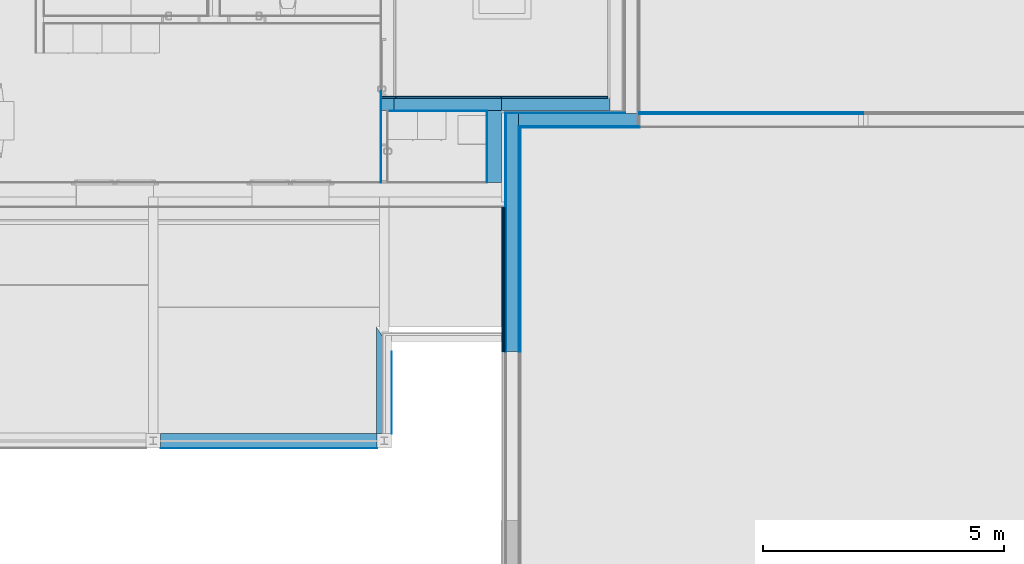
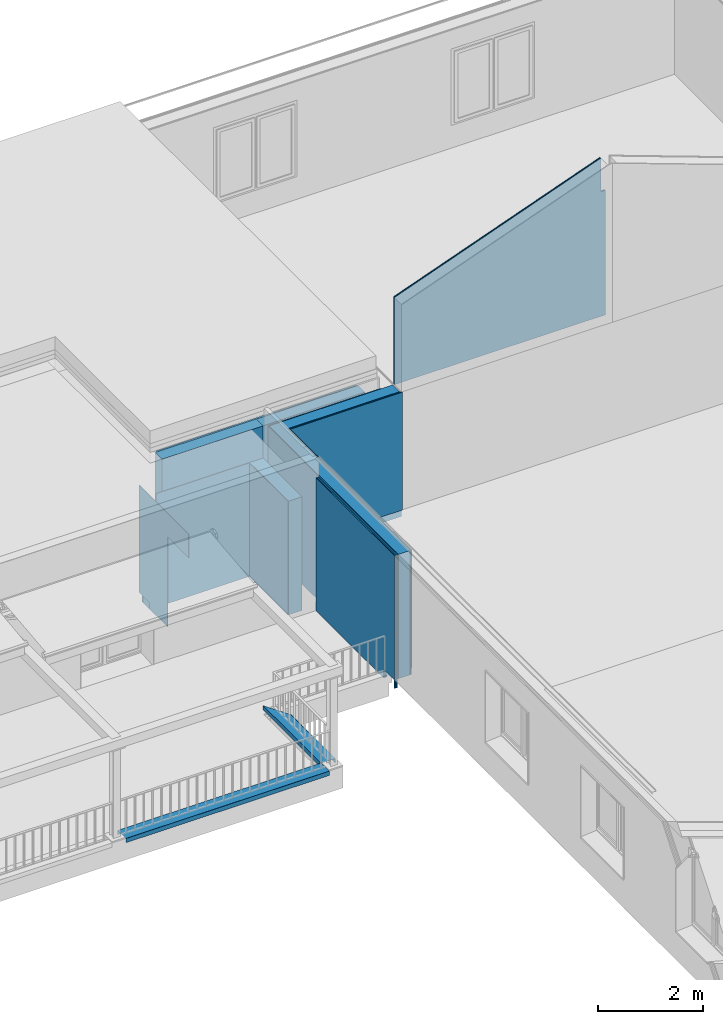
# One storey, part 11 of 36: 28 building element parts, 1 opening, 10 elements without a shape of their own.
"""IFC4 building model written with IfcOpenShell, lengths in millimetres."""

from ifc_helpers import new_model, entity, si_unit, converted_unit, derived_unit, direction, frame, origin_with_axes, place, context, subcontext, project, spatial, polygons, material, type_object, element, aggregate, save


model = new_model("IFC4")

# Units and contexts
model_context = context("Model", 3, precision=0.01, world=origin_with_axes(), true_north=direction((0.0, 1.0)))
body_context = subcontext(model_context, "Body", "Model", "MODEL_VIEW")
ifc_project = project(units=[si_unit("LENGTHUNIT", "METRE", prefix="MILLI"), si_unit("AREAUNIT", "SQUARE_METRE"), si_unit("VOLUMEUNIT", "CUBIC_METRE"), converted_unit("PLANEANGLEUNIT", "DEGREE", entity("IfcPlaneAngleMeasure", 0.0174532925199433), si_unit("PLANEANGLEUNIT", "RADIAN"), dimensions=[0, 0, 0, 0, 0, 0, 0]), converted_unit("TIMEUNIT", "Year", entity("IfcTimeMeasure", 31557600.0), si_unit("TIMEUNIT", "SECOND"), dimensions=[0, 0, 1, 0, 0, 0, 0]), si_unit("MASSUNIT", "GRAM", prefix="KILO"), si_unit("THERMODYNAMICTEMPERATUREUNIT", "DEGREE_CELSIUS"), si_unit("LUMINOUSINTENSITYUNIT", "LUMEN"), si_unit("ENERGYUNIT", "JOULE", prefix="MEGA"), derived_unit("THERMALCONDUCTANCEUNIT", [(si_unit("POWERUNIT", "WATT"), 1), (si_unit("LENGTHUNIT", "METRE"), -1), (si_unit("THERMODYNAMICTEMPERATUREUNIT", "KELVIN"), -1)]), derived_unit("SPECIFICHEATCAPACITYUNIT", [(si_unit("ENERGYUNIT", "JOULE"), 1), (si_unit("MASSUNIT", "GRAM", prefix="KILO"), -1), (si_unit("THERMODYNAMICTEMPERATUREUNIT", "KELVIN"), -1)]), derived_unit("MASSDENSITYUNIT", [(si_unit("MASSUNIT", "GRAM", prefix="KILO"), 1), (si_unit("VOLUMEUNIT", "CUBIC_METRE"), -1)])], contexts=[model_context])

# Site, building, storey
site_placement = place(None, origin_with_axes())
site = spatial("IfcSite", under=ifc_project, at=site_placement, Name="Gelände", CompositionType="ELEMENT")
building_placement = place(site_placement, origin_with_axes())
building = spatial("IfcBuilding", under=site, at=building_placement, Name="Gebäude", CompositionType="ELEMENT")
storey_placement = place(building_placement, frame((0.0, 0.0, 8700.0), z_axis=(0.0, 0.0, 1.0), x_axis=(1.0, 0.0, 0.0)))
storey = spatial("IfcBuildingStorey", under=building, at=storey_placement, Name="Attika", CompositionType="ELEMENT", Elevation=8700.0)

# Wall, building element parts
wall_type_1 = type_object("IfcWallType", Name="Aussenwand Typ 01 318", PredefinedType="NOTDEFINED")
wall_1_placement = place(storey_placement, frame((20776.99744477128, 27599.59728131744, 3400.0), z_axis=(0.0, 0.0, 1.0), x_axis=(1.0, 0.0, 0.0)))
wall_1 = element("IfcWall", 1, at=wall_1_placement, inside=storey, type_object=wall_type_1, Name="Wand-014", PredefinedType="NOTDEFINED")
ifc_material_1 = material(Name="Verputz Innen")
building_element_part_1_placement = place(wall_1_placement, origin_with_axes())
building_element_part_1 = element("IfcBuildingElementPart", 2, at=building_element_part_1_placement, material=ifc_material_1, Name="Verputz Innen", PredefinedType="NOTDEFINED", context=body_context, shape_type="Tessellation", body=[
    polygons([(0.0, 318.0000000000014, 2032.028896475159), (4551.99999979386, 318.0000000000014, 3688.821402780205), (4551.99999979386, 318.0000000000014, 2903.934870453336), (4651.999999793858, 318.0000000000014, 2903.934870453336), (4651.999999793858, 318.0000000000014, 0.0), (0.0, 318.0000000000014, 0.0), (4551.99999979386, 307.9999999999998, 3688.821402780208), (0.0, 307.9999999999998, 2032.028896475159), (4551.99999979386, 307.9999999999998, 2903.934870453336), (4651.999999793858, 307.9999999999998, 2903.934870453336), (4651.999999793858, 307.9999999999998, 0.0), (0.0, 307.9999999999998, 0.0)], [[[1, 2, 3, 4, 5, 6]], [[7, 2, 1, 8]], [[2, 7, 9, 3]], [[4, 3, 9, 10]], [[10, 11, 5, 4]], [[5, 11, 12, 6]], [[8, 1, 6, 12]], [[7, 8, 12, 11, 10, 9]]], closed=True),
])
ifc_material_2 = material(Name="Gipsfaserplatte GFP")
building_element_part_2_placement = place(wall_1_placement, origin_with_axes())
building_element_part_2 = element("IfcBuildingElementPart", 3, at=building_element_part_2_placement, material=ifc_material_2, Name="Gipsfaserplatte GFP", PredefinedType="NOTDEFINED", context=body_context, shape_type="Tessellation", body=[
    polygons([(0.0, 292.9999999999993, 2032.028896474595), (4551.99999979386, 292.9999999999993, 3688.821402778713), (4551.99999979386, 292.9999999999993, 2903.934870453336), (4651.999999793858, 292.9999999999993, 2903.934870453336), (4651.999999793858, 292.9999999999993, 0.0), (0.0, 292.9999999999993, 0.0), (4551.99999979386, 278.0000000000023, 3688.821402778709), (0.0, 277.9999999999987, 2032.028896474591), (4551.99999979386, 277.9999999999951, 2903.934870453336), (4651.999999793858, 278.0000000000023, 2903.934870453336), (4651.999999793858, 277.9999999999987, 0.0), (0.0, 277.9999999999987, 0.0)], [[[1, 2, 3, 4, 5, 6]], [[7, 2, 1, 8]], [[2, 7, 9, 3]], [[4, 3, 9, 10]], [[10, 11, 5, 4]], [[5, 11, 12, 6]], [[8, 1, 6, 12]], [[7, 8, 12, 11, 10, 9]]], closed=True),
])
building_element_part_3_placement = place(wall_1_placement, origin_with_axes())
building_element_part_3 = element("IfcBuildingElementPart", 4, at=building_element_part_3_placement, material=ifc_material_2, Name="Gipsfaserplatte GFP", PredefinedType="NOTDEFINED", context=body_context, shape_type="Tessellation", body=[
    polygons([(0.0, 307.9999999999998, 2032.028896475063), (4551.99999979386, 307.9999999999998, 3688.821402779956), (4551.99999979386, 307.9999999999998, 2903.934870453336), (4651.999999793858, 307.9999999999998, 2903.934870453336), (4651.999999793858, 307.9999999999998, 0.0), (0.0, 307.9999999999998, 0.0), (4551.99999979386, 292.9999999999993, 3688.821402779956), (0.0, 292.9999999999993, 2032.028896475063), (4551.99999979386, 292.9999999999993, 2903.934870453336), (4651.999999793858, 292.9999999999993, 2903.934870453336), (4651.999999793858, 292.9999999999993, 0.0), (0.0, 292.9999999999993, 0.0)], [[[1, 2, 3, 4, 5, 6]], [[7, 2, 1, 8]], [[2, 7, 9, 3]], [[4, 3, 9, 10]], [[10, 11, 5, 4]], [[5, 11, 12, 6]], [[8, 1, 6, 12]], [[7, 8, 12, 11, 10, 9]]], closed=True),
])
aggregate(wall_1, [building_element_part_1, building_element_part_2, building_element_part_3])

wall_type_2 = type_object("IfcWallType", Name="Innenwand Typ 09 310", PredefinedType="NOTDEFINED")
wall_2_placement = place(storey_placement, frame((17609.99744477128, 28247.59728131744, 0.0), z_axis=(0.0, 0.0, 1.0), x_axis=(0.0, -1.0, 0.0)))
wall_2 = element("IfcWall", 5, at=wall_2_placement, inside=storey, type_object=wall_type_2, Name="Wand-014", PredefinedType="NOTDEFINED")
ifc_material_3 = material(Name="Beton bewehrt")
building_element_part_4_placement = place(wall_2_placement, origin_with_axes())
building_element_part_4 = element("IfcBuildingElementPart", 6, at=building_element_part_4_placement, material=ifc_material_3, Name="Beton bewehrt", PredefinedType="NOTDEFINED", context=body_context, shape_type="Tessellation", body=[
    polygons([(1790.000540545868, 309.9999999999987, 2650.0), (300.0000000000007, 309.9999999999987, 2650.0), (300.0000000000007, 10.00000000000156, 2650.0), (1790.000540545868, 10.00000000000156, 2650.0), (1790.000540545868, 309.9999999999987, 0.0), (300.0000000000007, 309.9999999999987, 0.0), (300.0000000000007, 10.00000000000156, 0.0), (1790.000540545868, 9.99999999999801, 0.0)], [[[1, 2, 3, 4]], [[5, 6, 2, 1]], [[3, 2, 6, 7]], [[4, 3, 7, 8]], [[4, 8, 5, 1]], [[8, 7, 6, 5]]], closed=True),
])
ifc_material_4 = material(Name="Kalkzementputz Aussen")
building_element_part_5_placement = place(wall_2_placement, origin_with_axes())
building_element_part_5 = element("IfcBuildingElementPart", 7, at=building_element_part_5_placement, material=ifc_material_4, Name="Kalkzementputz Aussen", PredefinedType="NOTDEFINED", context=body_context, shape_type="Tessellation", body=[
    polygons([(1780.000540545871, 10.00000000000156, 2650.0), (309.9999999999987, 10.00000000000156, 2650.0), (309.9999999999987, 0.0, 2650.0), (1780.000540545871, 0.0, 2650.0), (1780.000540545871, 9.99999999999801, 0.0), (309.9999999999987, 10.00000000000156, 0.0), (309.9999999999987, 0.0, 0.0), (1780.000540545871, 0.0, 0.0)], [[[1, 2, 3, 4]], [[5, 6, 2, 1]], [[3, 2, 6, 7]], [[4, 3, 7, 8]], [[4, 8, 5, 1]], [[8, 7, 6, 5]]], closed=True),
])
aggregate(wall_2, [building_element_part_4, building_element_part_5])

wall_3_placement = place(storey_placement, frame((17999.99744477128, 27907.59728131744, 500.0), z_axis=(0.0, 0.0, 1.0), x_axis=(1.0, 0.0, 0.0)))
wall_3 = element("IfcWall", 8, at=wall_3_placement, inside=storey, type_object=wall_type_1, Name="Wand-014", PredefinedType="NOTDEFINED")
ifc_material_5 = material(Name="Grobspanplatte-OSB")
building_element_part_6_placement = place(wall_3_placement, origin_with_axes())
building_element_part_6 = element("IfcBuildingElementPart", 9, at=building_element_part_6_placement, material=ifc_material_5, Name="Grobspanplatte-OSB", PredefinedType="NOTDEFINED", context=body_context, shape_type="Tessellation", body=[
    polygons([(2487.000000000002, 0.0, 2900.0), (18.00000000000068, 0.0, 2900.0), (18.00000000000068, -18.00000000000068, 2900.0), (2487.000000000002, -18.00000000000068, 2900.0), (2487.000000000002, 0.0, 0.0), (18.00000000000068, 0.0, 0.0), (18.00000000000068, -18.00000000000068, 0.0), (2487.000000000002, -18.00000000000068, 0.0)], [[[1, 2, 3, 4]], [[5, 6, 2, 1]], [[3, 2, 6, 7]], [[4, 3, 7, 8]], [[4, 8, 5, 1]], [[8, 7, 6, 5]]], closed=True),
])
ifc_material_6 = material(Name="Ständer Konstruktion gedämmt")
building_element_part_7_placement = place(wall_3_placement, origin_with_axes())
building_element_part_7 = element("IfcBuildingElementPart", 10, at=building_element_part_7_placement, material=ifc_material_6, Name="Ständer Konstruktion gedämmt", PredefinedType="NOTDEFINED", context=body_context, shape_type="Tessellation", body=[
    polygons([(2747.0, -18.00000000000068, 2900.0), (277.9999999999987, -18.00000000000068, 2900.0), (277.9999999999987, -277.9999999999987, 2900.0), (2747.0, -277.9999999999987, 2900.0), (2747.0, -18.00000000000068, 0.0), (277.9999999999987, -18.00000000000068, 0.0), (277.9999999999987, -277.9999999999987, 0.0), (2747.0, -277.9999999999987, 0.0)], [[[1, 2, 3, 4]], [[5, 6, 2, 1]], [[3, 2, 6, 7]], [[4, 3, 7, 8]], [[4, 8, 5, 1]], [[8, 7, 6, 5]]], closed=True),
])
building_element_part_8_placement = place(wall_3_placement, origin_with_axes())
building_element_part_8 = element("IfcBuildingElementPart", 11, at=building_element_part_8_placement, material=ifc_material_2, Name="Gipsfaserplatte GFP", PredefinedType="NOTDEFINED", context=body_context, shape_type="Tessellation", body=[
    polygons([(2762.0, -277.9999999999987, 2900.0), (292.9999999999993, -277.9999999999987, 2900.0), (292.9999999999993, -292.9999999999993, 2900.0), (2762.0, -292.9999999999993, 2900.0), (2762.0, -277.9999999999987, 0.0), (292.9999999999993, -277.9999999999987, 0.0), (292.9999999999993, -292.9999999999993, 0.0), (2762.0, -292.9999999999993, 0.0)], [[[1, 2, 3, 4]], [[5, 6, 2, 1]], [[3, 2, 6, 7]], [[4, 3, 7, 8]], [[4, 8, 5, 1]], [[8, 7, 6, 5]]], closed=True),
])
building_element_part_9_placement = place(wall_3_placement, origin_with_axes())
building_element_part_9 = element("IfcBuildingElementPart", 12, at=building_element_part_9_placement, material=ifc_material_2, Name="Gipsfaserplatte GFP", PredefinedType="NOTDEFINED", context=body_context, shape_type="Tessellation", body=[
    polygons([(2777.000000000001, -292.9999999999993, 2900.0), (307.9999999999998, -292.9999999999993, 2900.0), (307.9999999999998, -307.9999999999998, 2900.0), (2777.000000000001, -307.9999999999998, 2900.0), (2777.000000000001, -292.9999999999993, 0.0), (307.9999999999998, -292.9999999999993, 0.0), (307.9999999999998, -307.9999999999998, 0.0), (2777.000000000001, -307.9999999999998, 0.0)], [[[1, 2, 3, 4]], [[5, 6, 2, 1]], [[3, 2, 6, 7]], [[4, 3, 7, 8]], [[4, 8, 5, 1]], [[8, 7, 6, 5]]], closed=True),
])
building_element_part_10_placement = place(wall_3_placement, origin_with_axes())
building_element_part_10 = element("IfcBuildingElementPart", 13, at=building_element_part_10_placement, material=ifc_material_1, Name="Verputz Innen", PredefinedType="NOTDEFINED", context=body_context, shape_type="Tessellation", body=[
    polygons([(2787.000000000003, -318.0000000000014, 150.0000000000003), (2787.000000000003, -307.9999999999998, 150.0000000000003), (2787.000000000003, -307.9999999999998, 2900.0), (2787.000000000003, -318.0000000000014, 2900.0), (318.0000000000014, -307.9999999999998, 150.0000000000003), (318.0000000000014, -318.0000000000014, 150.0000000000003), (318.0000000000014, -307.9999999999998, 2900.0), (318.0000000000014, -318.0000000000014, 2900.0)], [[[1, 2, 3, 4]], [[5, 2, 1, 6]], [[2, 5, 7, 3]], [[4, 3, 7, 8]], [[6, 1, 4, 8]], [[5, 6, 8, 7]]], closed=True),
])
aggregate(wall_3, [building_element_part_6, building_element_part_7, building_element_part_8, building_element_part_9, building_element_part_10])

wall_type_3 = type_object("IfcWallType", Name="Innenwand Typ 10 310", PredefinedType="NOTDEFINED")
wall_4_placement = place(storey_placement, frame((15728.99744477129, 28247.59728131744, 0.0), z_axis=(0.0, 0.0, 1.0), x_axis=(1.0, 0.0, 0.0)))
wall_4 = element("IfcWall", 14, at=wall_4_placement, inside=storey, type_object=wall_type_3, Name="Wand-014", PredefinedType="NOTDEFINED")
ifc_material_7 = material(Name="Sichtbeton")
building_element_part_11_placement = place(wall_4_placement, origin_with_axes())
building_element_part_11 = element("IfcBuildingElementPart", 15, at=building_element_part_11_placement, material=ifc_material_7, Name="Sichtbeton", PredefinedType="NOTDEFINED", context=body_context, shape_type="Tessellation", body=[
    polygons([(-310.0000000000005, 0.0, 150.0000000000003), (0.0, 0.0, 150.0000000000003), (0.0, 0.0, 3399.999999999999), (2190.999999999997, 0.0, 3399.999999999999), (2190.999999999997, 0.0, 0.0), (-310.0000000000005, 0.0, 0.0), (-310.0000000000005, -39.99999999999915, 150.0000000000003), (0.0, -39.99999999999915, 150.0000000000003), (0.0, -39.99999999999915, 3399.999999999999), (2190.999999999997, -39.99999999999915, 3399.999999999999), (2190.999999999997, -39.99999999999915, 0.0), (-310.0000000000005, -39.99999999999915, 0.0)], [[[1, 2, 3, 4, 5, 6]], [[1, 7, 8, 2]], [[2, 8, 9, 3]], [[10, 4, 3, 9]], [[5, 4, 10, 11]], [[6, 5, 11, 12]], [[6, 12, 7, 1]], [[11, 10, 9, 8, 7, 12]]], closed=True),
])
building_element_part_12_placement = place(wall_4_placement, origin_with_axes())
building_element_part_12 = element("IfcBuildingElementPart", 16, at=building_element_part_12_placement, material=ifc_material_3, Name="Beton bewehrt", PredefinedType="NOTDEFINED", context=body_context, shape_type="Tessellation", body=[
    polygons([(-310.0000000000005, -39.99999999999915, 150.0000000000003), (-40.00000000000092, -39.99999999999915, 150.0000000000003), (-40.00000000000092, -39.99999999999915, 3399.999999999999), (2190.999999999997, -39.99999999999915, 3399.999999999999), (2190.999999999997, -39.99999999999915, 0.0), (-310.0000000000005, -39.99999999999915, 0.0), (-310.0000000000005, -300.0000000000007, 150.0000000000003), (-40.00000000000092, -300.0000000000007, 150.0000000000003), (-40.00000000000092, -300.0000000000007, 3399.999999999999), (2190.999999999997, -300.0000000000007, 3399.999999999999), (2190.999999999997, -300.0000000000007, 0.0), (-310.0000000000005, -300.0000000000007, 0.0)], [[[1, 2, 3, 4, 5, 6]], [[1, 7, 8, 2]], [[2, 8, 9, 3]], [[10, 4, 3, 9]], [[5, 4, 10, 11]], [[6, 5, 11, 12]], [[6, 12, 7, 1]], [[11, 10, 9, 8, 7, 12]]], closed=True),
])
building_element_part_13_placement = place(wall_4_placement, origin_with_axes())
building_element_part_13 = element("IfcBuildingElementPart", 17, at=building_element_part_13_placement, material=ifc_material_4, Name="Kalkzementputz Aussen", PredefinedType="NOTDEFINED", context=body_context, shape_type="Tessellation", body=[
    polygons([(-175.0000000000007, -300.0000000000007, 150.0000000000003), (-174.9999999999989, -299.9998946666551, 2649.999948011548), (1890.999999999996, -299.9998946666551, 2649.999948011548), (1890.999999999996, -300.0000000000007, 0.0), (-164.9999999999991, -300.0000000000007, 0.0), (-165.0000000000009, -300.0000000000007, 150.0000000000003), (-175.0000000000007, -309.9999999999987, 150.0000000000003), (-174.9999999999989, -309.9999999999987, 2649.999948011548), (1890.999999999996, -309.9999999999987, 2649.999948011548), (1890.999999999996, -309.9999999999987, 0.0), (-164.9999999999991, -309.9999999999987, 0.0), (-165.0000000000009, -309.9999999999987, 150.0000000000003)], [[[1, 2, 3, 4, 5, 6]], [[7, 8, 2, 1]], [[8, 9, 3, 2]], [[4, 3, 9, 10]], [[4, 10, 11, 5]], [[11, 12, 6, 5]], [[12, 7, 1, 6]], [[10, 9, 8, 7, 12, 11]]], closed=True),
])
aggregate(wall_4, [building_element_part_11, building_element_part_12, building_element_part_13])

# Curtain wall, building element parts
curtain_wall_type = type_object("IfcCurtainWallType", Name="Fassade Typ 02 - Vertikale Schalung 71", PredefinedType="NOTDEFINED")
curtain_wall_placement = place(storey_placement, frame((17928.99744477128, 22947.48446271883, 300.0000000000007), z_axis=(0.0, 0.0, 1.0), x_axis=(0.0, 1.0, 0.0)))
curtain_wall = element("IfcCurtainWall", 18, at=curtain_wall_placement, inside=storey, type_object=curtain_wall_type, Name="Wand-014", PredefinedType="NOTDEFINED")
ifc_material_8 = material(Name="Falzschalung vertikal")
building_element_part_14_placement = place(curtain_wall_placement, origin_with_axes())
building_element_part_14 = element("IfcBuildingElementPart", 19, at=building_element_part_14_placement, material=ifc_material_8, Name="Falzschalung vertikal", PredefinedType="NOTDEFINED", context=body_context, shape_type="Tessellation", body=[
    polygons([(10.11227805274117, -21.0000000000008, 199.9999999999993), (410.1122780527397, -21.0000000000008, 199.9999999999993), (410.1122780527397, -21.0000000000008, 0.0), (3000.0, -21.0000000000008, 0.0), (3000.0, -21.0000000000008, 3099.999999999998), (0.0, -21.0000000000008, 3099.999999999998), (0.0, -21.0000000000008, 0.0), (10.11227805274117, -21.0000000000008, 0.0), (10.11227805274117, 0.0, 199.9999999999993), (410.1122780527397, 0.0, 199.9999999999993), (410.1122780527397, 0.0, 0.0), (3000.0, 0.0, 0.0), (3000.0, 0.0, 3099.999999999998), (0.0, 0.0, 3099.999999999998), (0.0, 0.0, 0.0), (10.11227805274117, 0.0, 0.0)], [[[1, 2, 3, 4, 5, 6, 7, 8]], [[9, 10, 2, 1]], [[11, 3, 2, 10]], [[4, 3, 11, 12]], [[12, 13, 5, 4]], [[14, 6, 5, 13]], [[15, 7, 6, 14]], [[15, 16, 8, 7]], [[9, 1, 8, 16]], [[11, 10, 9, 16, 15, 14, 13, 12]]], closed=True),
])
ifc_material_9 = material(Name="Lattenrost horizontal")
building_element_part_15_placement = place(curtain_wall_placement, origin_with_axes())
building_element_part_15 = element("IfcBuildingElementPart", 20, at=building_element_part_15_placement, material=ifc_material_9, Name="Lattenrost horizontal", PredefinedType="NOTDEFINED", context=body_context, shape_type="Tessellation", body=[
    polygons([(10.11227805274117, -45.99999999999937, 199.9999999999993), (410.1122780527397, -45.99999999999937, 199.9999999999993), (410.1122780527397, -45.99999999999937, 0.0), (3000.0, -45.99999999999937, 0.0), (3000.0, -45.99999999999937, 3099.999999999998), (0.0, -45.99999999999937, 3099.999999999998), (0.0, -45.99999999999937, 0.0), (10.11227805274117, -45.99999999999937, 0.0), (10.11227805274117, -21.0000000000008, 199.9999999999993), (410.1122780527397, -21.0000000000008, 199.9999999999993), (410.1122780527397, -21.0000000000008, 0.0), (3000.0, -21.0000000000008, 0.0), (3000.0, -21.0000000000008, 3099.999999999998), (0.0, -21.0000000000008, 3099.999999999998), (0.0, -21.0000000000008, 0.0), (10.11227805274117, -21.0000000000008, 0.0)], [[[1, 2, 3, 4, 5, 6, 7, 8]], [[9, 10, 2, 1]], [[11, 3, 2, 10]], [[4, 3, 11, 12]], [[12, 13, 5, 4]], [[14, 6, 5, 13]], [[15, 7, 6, 14]], [[15, 16, 8, 7]], [[9, 1, 8, 16]], [[11, 10, 9, 16, 15, 14, 13, 12]]], closed=True),
])
ifc_material_10 = material(Name="Lattenrost vertikal")
building_element_part_16_placement = place(curtain_wall_placement, origin_with_axes())
building_element_part_16 = element("IfcBuildingElementPart", 21, at=building_element_part_16_placement, material=ifc_material_10, Name="Lattenrost vertikal", PredefinedType="NOTDEFINED", context=body_context, shape_type="Tessellation", body=[
    polygons([(210.1122780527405, -71.0000000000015, 199.9999999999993), (410.1122780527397, -71.0000000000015, 199.9999999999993), (410.1122780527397, -71.0000000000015, 0.0), (3000.0, -71.0000000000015, 0.0), (3000.0, -71.0000000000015, 3099.999999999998), (0.0, -71.0000000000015, 3099.999999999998), (0.0, -71.0000000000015, 0.0), (10.11227805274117, -71.0000000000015, 0.0), (10.11227805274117, -71.0000000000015, 199.9999999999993), (10.11227805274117, -45.99999999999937, 199.9999999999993), (410.1122780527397, -45.99999999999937, 199.9999999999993), (410.1122780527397, -45.99999999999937, 0.0), (3000.0, -45.99999999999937, 0.0), (3000.0, -45.99999999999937, 3099.999999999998), (0.0, -45.99999999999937, 3099.999999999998), (0.0, -45.99999999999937, 0.0), (10.11227805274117, -45.99999999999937, 0.0)], [[[1, 2, 3, 4, 5, 6, 7, 8, 9]], [[10, 11, 2, 1, 9]], [[12, 3, 2, 11]], [[4, 3, 12, 13]], [[13, 14, 5, 4]], [[15, 6, 5, 14]], [[16, 7, 6, 15]], [[16, 17, 8, 7]], [[10, 9, 8, 17]], [[12, 11, 10, 17, 16, 15, 14, 13]]], closed=True),
])
aggregate(curtain_wall, [building_element_part_14, building_element_part_15, building_element_part_16])

# Wall, building element parts
wall_type_4 = type_object("IfcWallType", Name="Innenwand Typ 06 300", PredefinedType="NOTDEFINED")
wall_5_placement = place(storey_placement, frame((17919.99744477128, 28247.59728131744, 500.0), z_axis=(0.0, 0.0, 1.0), x_axis=(1.0, 0.0, 0.0)))
wall_5 = element("IfcWall", 22, at=wall_5_placement, inside=storey, type_object=wall_type_4, Name="Wand-014", PredefinedType="NOTDEFINED")
building_element_part_17_placement = place(wall_5_placement, origin_with_axes())
building_element_part_17 = element("IfcBuildingElementPart", 23, at=building_element_part_17_placement, material=ifc_material_3, Name="Beton bewehrt", PredefinedType="NOTDEFINED", context=body_context, shape_type="Tessellation", body=[
    polygons([(2248.999999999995, -300.0000000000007, 0.0), (0.0, -300.0000000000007, 0.0), (0.0, -39.99999999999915, 0.0), (2248.999999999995, -39.99999999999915, 0.0), (2248.999999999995, -300.0000000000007, 2899.999999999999), (0.0, -300.0000000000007, 2899.999999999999), (0.0, -39.99999999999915, 2899.999999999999), (2248.999999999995, -39.99999999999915, 2899.999999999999)], [[[1, 2, 3, 4]], [[5, 6, 2, 1]], [[3, 2, 6, 7]], [[4, 3, 7, 8]], [[4, 8, 5, 1]], [[8, 7, 6, 5]]], closed=True),
])
building_element_part_18_placement = place(wall_5_placement, origin_with_axes())
building_element_part_18 = element("IfcBuildingElementPart", 24, at=building_element_part_18_placement, material=ifc_material_7, Name="Sichtbeton", PredefinedType="NOTDEFINED", context=body_context, shape_type="Tessellation", body=[
    polygons([(2208.999999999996, -39.99999999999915, 0.0), (0.0, -39.99999999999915, 0.0), (0.0, 0.0, 0.0), (2208.999999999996, 0.0, 0.0), (2208.999999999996, -39.99999999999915, 2899.999999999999), (0.0, -39.99999999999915, 2899.999999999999), (0.0, 0.0, 2899.999999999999), (2208.999999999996, 0.0, 2899.999999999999)], [[[1, 2, 3, 4]], [[5, 6, 2, 1]], [[3, 2, 6, 7]], [[4, 3, 7, 8]], [[4, 8, 5, 1]], [[8, 7, 6, 5]]], closed=True),
])
aggregate(wall_5, [building_element_part_17, building_element_part_18])

# Wall, opening, building element part
wall_type_5 = type_object("IfcWallType", Name="Innenwand Typ 04 145", PredefinedType="NOTDEFINED")
wall_6_placement = place(storey_placement, frame((15728.99744477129, 28247.59728131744, 0.0), z_axis=(0.0, 0.0, 1.0), x_axis=(0.0, -1.0, 0.0)))
wall_6 = element("IfcWall", 25, at=wall_6_placement, inside=storey, type_object=wall_type_5, Name="Wand-014", PredefinedType="NOTDEFINED")
opening_placement = place(wall_6_placement, frame((1390.00054054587, 0.0, 0.0), z_axis=(0.0, 0.0, 1.0), x_axis=(1.0, 0.0, 0.0)))
element("IfcOpeningElement", 26, at=opening_placement, cuts=wall_6, Name="Tür-011", context=body_context, identifier="Reference", shape_type="Tessellation", body=[
    polygons([(399.9999999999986, -163.9999999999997, 2100.0), (399.9999999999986, -163.9999999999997, 0.0), (-399.9999999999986, -163.9999999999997, 0.0), (-399.9999999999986, -163.9999999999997, 2100.0), (399.9999999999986, -310.9999999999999, 2100.0), (399.9999999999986, -310.9999999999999, 0.0), (-399.9999999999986, -310.9999999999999, 0.0), (-399.9999999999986, -310.9999999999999, 2100.0)], [[[1, 2, 3, 4]], [[5, 6, 2, 1]], [[6, 7, 3, 2]], [[7, 8, 4, 3]], [[8, 5, 1, 4]], [[7, 6, 5, 8]]], closed=True),
])
building_element_part_19_placement = place(wall_6_placement, origin_with_axes())
building_element_part_19 = element("IfcBuildingElementPart", 27, at=building_element_part_19_placement, material=ifc_material_4, Name="Kalkzementputz Aussen", PredefinedType="NOTDEFINED", context=body_context, shape_type="Tessellation", body=[
    polygons([(990.0005405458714, -300.0000000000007, 2100.0), (990.0005405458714, -300.0000000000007, 0.0), (300.0000000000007, -300.0000000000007, 0.0), (300.0000000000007, -300.0000000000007, 150.0000000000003), (0.0, -300.0000000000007, 150.0000000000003), (-100.0000000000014, -300.0000000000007, 150.0000000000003), (-100.0000000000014, -299.9999999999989, 2649.999948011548), (1790.000540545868, -300.0000000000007, 2649.999948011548), (1790.000540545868, -300.0000000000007, 2100.0), (990.0005405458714, -310.0000000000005, 2100.0), (990.0005405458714, -310.0000000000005, 0.0), (300.0000000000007, -310.0000000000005, 0.0), (300.0000000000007, -310.0000000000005, 150.0000000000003), (0.0, -310.0000000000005, 150.0000000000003), (-100.0000000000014, -310.0000000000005, 150.0000000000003), (-100.0000000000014, -310.0000000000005, 2649.999948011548), (1790.000540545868, -310.0000000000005, 2649.999948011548), (1790.000540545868, -310.0000000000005, 2100.0)], [[[1, 2, 3, 4, 5, 6, 7, 8, 9]], [[2, 1, 10, 11]], [[2, 11, 12, 3]], [[3, 12, 13, 4]], [[4, 13, 14, 5]], [[14, 15, 6, 5]], [[6, 15, 16, 7]], [[16, 17, 8, 7]], [[18, 9, 8, 17]], [[1, 9, 18, 10]], [[10, 18, 17, 16, 15, 14, 13, 12, 11]]], closed=True),
])
aggregate(wall_6, [building_element_part_19])

# Covering, building element parts
covering_type = type_object("IfcCoveringType", Name="Brüstungsabdeckung 04 315 x 100", PredefinedType="NOTDEFINED")
covering_1_placement = place(storey_placement, frame((10847.19581849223, 20947.59674077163, 500.0), z_axis=(0.0, 0.0, 1.0), x_axis=(0.0, -1.0, 0.0)))
covering_1 = element("IfcCovering", 28, at=covering_1_placement, inside=storey, type_object=covering_type, Name="Unterzug-027", PredefinedType="NOTDEFINED")
ifc_material_11 = material(Name="Stahl")
building_element_part_20_placement = place(covering_1_placement, origin_with_axes())
building_element_part_20 = element("IfcBuildingElementPart", 29, at=building_element_part_20_placement, material=ifc_material_11, Name="Stahl", PredefinedType="NOTDEFINED", context=body_context, shape_type="Tessellation", body=[
    polygons([(-307.7000901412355, 4490.8, 2.526754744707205), (-307.7001324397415, 4490.8, -97.47324404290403), (-307.7001324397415, 0.0, -97.47324404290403), (-307.7000901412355, 0.0, 2.526754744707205), (4.999999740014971, 4490.8, 2.526754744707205), (4.999999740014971, 4490.8, -2.907372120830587e-06), (-304.9999979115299, 4490.8, 1.792463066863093e-06), (-305.0000872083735, 4490.8, -97.47324404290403), (-305.0000872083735, 0.0, -97.47324404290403), (-304.9999979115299, 0.0, 1.792463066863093e-06), (4.999999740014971, 0.0, -2.907372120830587e-06), (4.999999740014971, 0.0, 2.526754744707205)], [[[1, 2, 3, 4]], [[1, 5, 6, 7, 8, 2]], [[2, 8, 9, 3]], [[4, 3, 9, 10, 11, 12]], [[5, 1, 4, 12]], [[6, 5, 12, 11]], [[7, 6, 11, 10]], [[8, 7, 10, 9]]], closed=True),
])
building_element_part_21_placement = place(covering_1_placement, origin_with_axes())
building_element_part_21 = element("IfcBuildingElementPart", 30, at=building_element_part_21_placement, material=ifc_material_11, Name="Stahl", PredefinedType="NOTDEFINED", context=body_context, shape_type="Tessellation", body=[
    polygons([(5.000000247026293, 4490.8, -5.935394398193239e-07), (4.999913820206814, 4490.8, -97.47324404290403), (4.999913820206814, 0.0, -97.47324404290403), (5.000000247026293, 0.0, -5.935394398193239e-07), (5.000000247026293, 4490.8, 2.526755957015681), (7.700087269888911, 4490.8, 2.526755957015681), (7.699960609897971, 4490.8, -97.47324404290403), (7.699960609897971, 0.0, -97.47324404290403), (7.700087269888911, 0.0, 2.526755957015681), (5.000000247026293, 0.0, 2.526755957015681)], [[[1, 2, 3, 4]], [[1, 5, 6, 7, 2]], [[2, 7, 8, 3]], [[4, 3, 8, 9, 10]], [[5, 1, 4, 10]], [[6, 5, 10, 9]], [[7, 6, 9, 8]]], closed=True),
])
aggregate(covering_1, [building_element_part_20, building_element_part_21])

covering_2_placement = place(storey_placement, frame((15637.99581849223, 21247.59674077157, 500.0), z_axis=(0.0, 0.0, 1.0), x_axis=(1.0, 0.0, 0.0)))
covering_2 = element("IfcCovering", 31, at=covering_2_placement, inside=storey, type_object=covering_type, Name="Unterzug-027", PredefinedType="NOTDEFINED")
building_element_part_22_placement = place(covering_2_placement, origin_with_axes())
building_element_part_22 = element("IfcBuildingElementPart", 32, at=building_element_part_22_placement, material=ifc_material_11, Name="Stahl", PredefinedType="NOTDEFINED", context=body_context, shape_type="Tessellation", body=[
    polygons([(-304.9999979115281, 4.999997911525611, 1.792463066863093e-06), (-304.9999979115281, 0.0, 1.792463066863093e-06), (-305.0000872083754, 0.0, -97.47324404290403), (-305.0000872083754, 5.000087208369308, -97.47324404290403), (-307.7000912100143, 4.999997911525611, 1.792463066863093e-06), (-307.7000912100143, 0.0, 1.792463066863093e-06), (-307.7001324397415, 0.0, -97.47324404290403), (-307.7001324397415, 5.000087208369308, -97.47324404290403)], [[[1, 2, 3, 4]], [[2, 1, 5, 6]], [[2, 6, 7, 3]], [[8, 4, 3, 7]], [[1, 4, 8, 5]], [[5, 8, 7, 6]]], closed=True),
    polygons([(-299.9999999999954, 7.700090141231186, 2.526754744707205), (-299.9999999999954, 0.0, 2.526754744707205), (4.999999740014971, 0.0, 2.526754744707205), (4.999999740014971, 1696.754969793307, 2.526754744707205), (-307.7000901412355, 2212.700062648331, 2.526754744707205), (-307.7000901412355, 7.700090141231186, 2.526754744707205), (-299.9999999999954, 7.700091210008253, 1.792463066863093e-06), (-299.9999999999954, 4.999997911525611, 1.792463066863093e-06), (-299.9999999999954, 0.0, 1.716658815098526e-06), (4.999999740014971, 0.0, -2.907372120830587e-06), (4.999999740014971, 1696.754969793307, -2.907372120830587e-06), (-307.7001324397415, 2212.700132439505, -97.47324404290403), (-304.9999979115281, 2208.244997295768, 1.792463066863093e-06), (-305.0000872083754, 2208.245144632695, -97.47324404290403), (-307.7001324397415, 7.700132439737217, -97.47324404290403), (-305.0000872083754, 7.700132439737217, -97.47324404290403), (-304.9999979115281, 7.700091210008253, 1.792463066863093e-06)], [[[1, 2, 3, 4, 5, 6]], [[2, 1, 7, 8, 9]], [[2, 9, 10, 3]], [[10, 11, 4, 3]], [[12, 5, 4, 11, 13, 14]], [[15, 6, 5, 12]], [[1, 6, 15, 16, 17, 7]], [[7, 17, 13, 11, 10, 9, 8]], [[17, 16, 14, 13]], [[16, 15, 12, 14]]], closed=True),
])
building_element_part_23_placement = place(covering_2_placement, origin_with_axes())
building_element_part_23 = element("IfcBuildingElementPart", 33, at=building_element_part_23_placement, material=ifc_material_11, Name="Stahl", PredefinedType="NOTDEFINED", context=body_context, shape_type="Tessellation", body=[
    polygons([(5.000000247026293, 1696.754968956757, -5.935394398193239e-07), (4.99991382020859, 1696.755111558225, -97.47324404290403), (4.99991382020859, 0.0, -97.47324404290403), (5.000000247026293, 0.0, -5.935394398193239e-07), (5.000000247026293, 1696.754968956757, 2.526755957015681), (7.700087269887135, 1692.29991219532, 2.526755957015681), (7.699960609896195, 1692.300121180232, -97.47324404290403), (7.699960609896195, 0.0, -97.47324404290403), (7.700087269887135, 0.0, 2.526755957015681), (5.000000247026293, 0.0, 2.526755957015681)], [[[1, 2, 3, 4]], [[1, 5, 6, 7, 2]], [[2, 7, 8, 3]], [[4, 3, 8, 9, 10]], [[5, 1, 4, 10]], [[6, 5, 10, 9]], [[7, 6, 9, 8]]], closed=True),
])
aggregate(covering_2, [building_element_part_22, building_element_part_23])

# Wall, building element parts
wall_7_placement = place(storey_placement, frame((17999.99744477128, 27907.59728131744, 500.0), z_axis=(0.0, 0.0, 1.0), x_axis=(0.0, -1.0, 0.0)))
wall_7 = element("IfcWall", 34, at=wall_7_placement, inside=storey, type_object=wall_type_1, Name="Wand-014", PredefinedType="NOTDEFINED")
building_element_part_24_placement = place(wall_7_placement, origin_with_axes())
building_element_part_24 = element("IfcBuildingElementPart", 35, at=building_element_part_24_placement, material=ifc_material_1, Name="Verputz Innen", PredefinedType="NOTDEFINED", context=body_context, shape_type="Tessellation", body=[
    polygons([(4960.11281859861, 317.9999999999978, 150.0000000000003), (307.9999999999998, 318.0000000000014, 150.0000000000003), (307.9999999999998, 318.0000000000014, 2900.0), (4960.11281859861, 317.9999999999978, 2900.0), (307.9999999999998, 307.9999999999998, 150.0000000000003), (4960.11281859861, 307.9999999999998, 150.0000000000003), (307.9999999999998, 307.9999999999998, 2900.0), (4960.11281859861, 307.9999999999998, 2900.0)], [[[1, 2, 3, 4]], [[5, 2, 1, 6]], [[2, 5, 7, 3]], [[7, 8, 4, 3]], [[6, 1, 4, 8]], [[5, 6, 8, 7]]], closed=True),
])
building_element_part_25_placement = place(wall_7_placement, origin_with_axes())
building_element_part_25 = element("IfcBuildingElementPart", 36, at=building_element_part_25_placement, material=ifc_material_2, Name="Gipsfaserplatte GFP", PredefinedType="NOTDEFINED", context=body_context, shape_type="Tessellation", body=[
    polygons([(4960.11281859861, 307.9999999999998, 0.0), (4960.11281859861, 292.9999999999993, 0.0), (292.9999999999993, 292.9999999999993, 0.0), (292.9999999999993, 307.9999999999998, 0.0), (4960.11281859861, 307.9999999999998, 2900.0), (4960.11281859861, 292.9999999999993, 2900.0), (292.9999999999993, 292.9999999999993, 2900.0), (292.9999999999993, 307.9999999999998, 2900.0)], [[[1, 2, 3, 4]], [[1, 5, 6, 2]], [[2, 6, 7, 3]], [[4, 3, 7, 8]], [[5, 1, 4, 8]], [[6, 5, 8, 7]]], closed=True),
])
building_element_part_26_placement = place(wall_7_placement, origin_with_axes())
building_element_part_26 = element("IfcBuildingElementPart", 37, at=building_element_part_26_placement, material=ifc_material_2, Name="Gipsfaserplatte GFP", PredefinedType="NOTDEFINED", context=body_context, shape_type="Tessellation", body=[
    polygons([(4960.11281859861, 292.9999999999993, 0.0), (4960.11281859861, 277.9999999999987, 0.0), (277.9999999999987, 277.9999999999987, 0.0), (277.9999999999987, 292.9999999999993, 0.0), (4960.11281859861, 292.9999999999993, 2900.0), (4960.11281859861, 277.9999999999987, 2900.0), (277.9999999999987, 277.9999999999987, 2900.0), (277.9999999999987, 292.9999999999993, 2900.0)], [[[1, 2, 3, 4]], [[1, 5, 6, 2]], [[2, 6, 7, 3]], [[4, 3, 7, 8]], [[5, 1, 4, 8]], [[6, 5, 8, 7]]], closed=True),
])
building_element_part_27_placement = place(wall_7_placement, origin_with_axes())
building_element_part_27 = element("IfcBuildingElementPart", 38, at=building_element_part_27_placement, material=ifc_material_5, Name="Grobspanplatte-OSB", PredefinedType="NOTDEFINED", context=body_context, shape_type="Tessellation", body=[
    polygons([(4960.11281859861, 18.00000000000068, 0.0), (4960.11281859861, 0.0, 0.0), (0.0, 0.0, 0.0), (0.0, 18.00000000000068, 0.0), (4960.11281859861, 18.00000000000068, 2900.0), (4960.11281859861, 0.0, 2900.0), (0.0, 0.0, 2900.0), (0.0, 18.00000000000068, 2900.0)], [[[1, 2, 3, 4]], [[1, 5, 6, 2]], [[2, 6, 7, 3]], [[4, 3, 7, 8]], [[5, 1, 4, 8]], [[6, 5, 8, 7]]], closed=True),
])
building_element_part_28_placement = place(wall_7_placement, origin_with_axes())
building_element_part_28 = element("IfcBuildingElementPart", 39, at=building_element_part_28_placement, material=ifc_material_6, Name="Ständer Konstruktion gedämmt", PredefinedType="NOTDEFINED", context=body_context, shape_type="Tessellation", body=[
    polygons([(4960.11281859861, 277.9999999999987, 0.0), (4960.11281859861, 18.00000000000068, 0.0), (18.00000000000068, 18.00000000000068, 0.0), (18.00000000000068, 277.9999999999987, 0.0), (4960.11281859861, 277.9999999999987, 2900.0), (4960.11281859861, 18.00000000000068, 2900.0), (18.00000000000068, 18.00000000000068, 2900.0), (18.00000000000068, 277.9999999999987, 2900.0)], [[[1, 2, 3, 4]], [[1, 5, 6, 2]], [[2, 6, 7, 3]], [[4, 3, 7, 8]], [[5, 1, 4, 8]], [[6, 5, 8, 7]]], closed=True),
])
aggregate(wall_7, [building_element_part_24, building_element_part_25, building_element_part_26, building_element_part_27, building_element_part_28])

save(model, "model.ifc")
